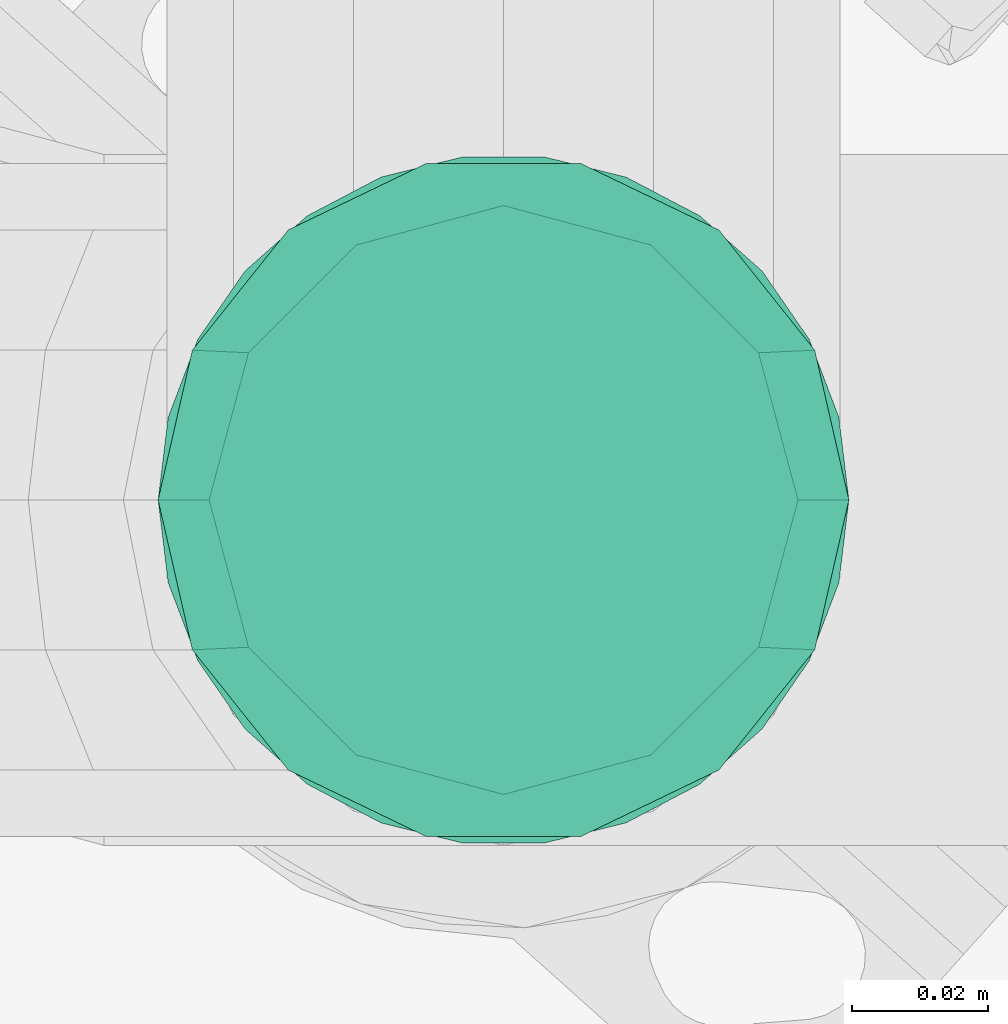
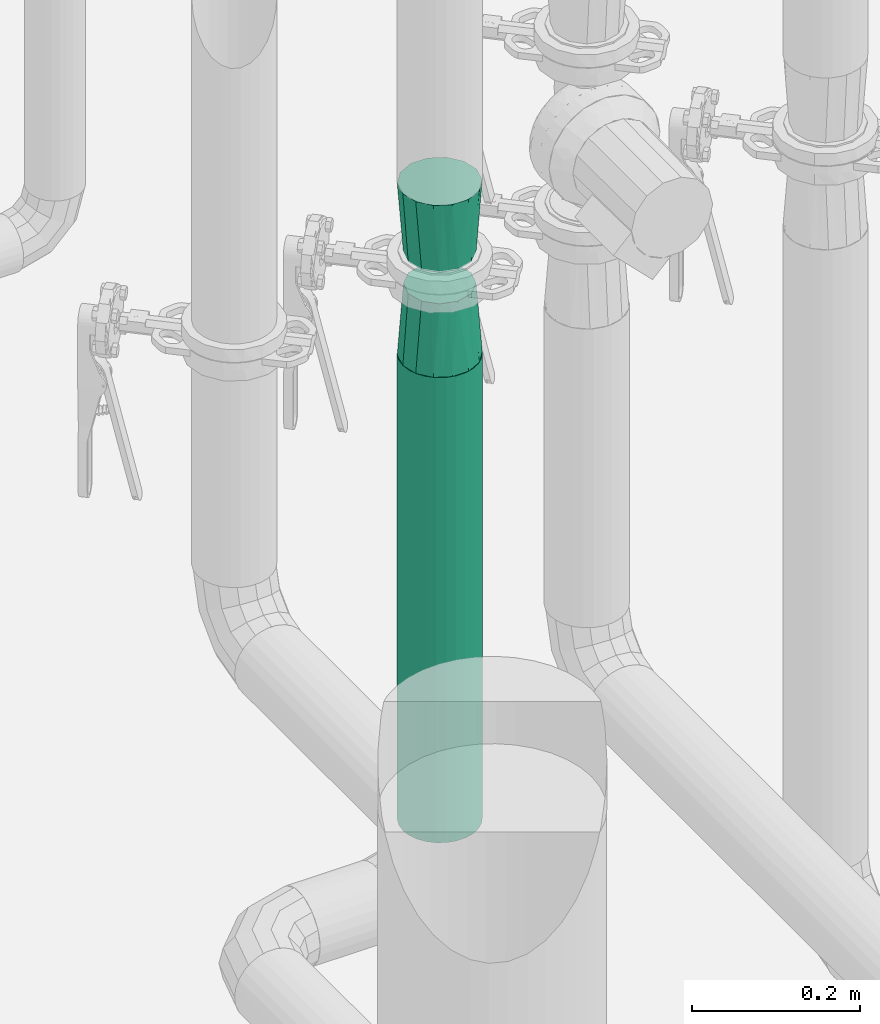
# One storey, part 11 of 43: 2 flow fittings, 1 flow segment.
"""IFC2X3 building model written with IfcOpenShell, lengths in millimetres."""

from ifc_helpers import new_model, entity, si_unit, converted_unit, derived_unit, direction, frame, origin, origin_2d_with_axis, place, context, subcontext, project, spatial, circle, extrude, faceted_brep, source, transform, mapped, material, type_object, type_shapes, element, save


model = new_model("IFC2X3")

# Units and contexts
model_context = context("Model", 3, precision=0.01, world=origin(), true_north=direction((6.123031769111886e-17, 1.0)))
body_context = subcontext(model_context, "Body", "Model", "MODEL_VIEW")
ifc_project = project(units=[si_unit("LENGTHUNIT", "METRE", prefix="MILLI"), si_unit("AREAUNIT", "SQUARE_METRE"), si_unit("VOLUMEUNIT", "CUBIC_METRE"), converted_unit("PLANEANGLEUNIT", "DEGREE", entity("IfcRatioMeasure", 0.017453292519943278), si_unit("PLANEANGLEUNIT", "RADIAN"), dimensions=[0, 0, 0, 0, 0, 0, 0]), si_unit("MASSUNIT", "GRAM", prefix="KILO"), derived_unit("MASSDENSITYUNIT", [(si_unit("MASSUNIT", "GRAM", prefix="KILO"), 1), (si_unit("LENGTHUNIT", "METRE"), -3)]), derived_unit("MOMENTOFINERTIAUNIT", [(si_unit("LENGTHUNIT", "METRE"), 4)]), si_unit("TIMEUNIT", "SECOND"), si_unit("FREQUENCYUNIT", "HERTZ"), si_unit("THERMODYNAMICTEMPERATUREUNIT", "DEGREE_CELSIUS"), derived_unit("THERMALTRANSMITTANCEUNIT", [(si_unit("MASSUNIT", "GRAM", prefix="KILO"), 1), (si_unit("THERMODYNAMICTEMPERATUREUNIT", "KELVIN"), -1), (si_unit("TIMEUNIT", "SECOND"), -3)]), derived_unit("VOLUMETRICFLOWRATEUNIT", [(si_unit("LENGTHUNIT", "METRE"), 3), (si_unit("TIMEUNIT", "SECOND"), -1)]), derived_unit("MASSFLOWRATEUNIT", [(si_unit("MASSUNIT", "GRAM", prefix="KILO"), 1), (si_unit("TIMEUNIT", "SECOND"), -1)]), derived_unit("ROTATIONALFREQUENCYUNIT", [(si_unit("TIMEUNIT", "SECOND"), -1)]), si_unit("ELECTRICCURRENTUNIT", "AMPERE"), si_unit("ELECTRICVOLTAGEUNIT", "VOLT"), si_unit("POWERUNIT", "WATT"), si_unit("FORCEUNIT", "NEWTON", prefix="KILO"), si_unit("ILLUMINANCEUNIT", "LUX"), si_unit("LUMINOUSFLUXUNIT", "LUMEN"), si_unit("LUMINOUSINTENSITYUNIT", "CANDELA"), derived_unit("USERDEFINED", [(si_unit("MASSUNIT", "GRAM", prefix="KILO"), -1), (si_unit("LENGTHUNIT", "METRE"), -2), (si_unit("TIMEUNIT", "SECOND"), 3), (si_unit("LUMINOUSFLUXUNIT", "LUMEN"), 1)]), derived_unit("SOUNDPOWERUNIT", [(si_unit("MASSUNIT", "GRAM", prefix="KILO"), 1), (si_unit("LENGTHUNIT", "METRE"), 2), (si_unit("TIMEUNIT", "SECOND"), -3)]), derived_unit("SOUNDPRESSUREUNIT", [(si_unit("MASSUNIT", "GRAM", prefix="KILO"), 1), (si_unit("LENGTHUNIT", "METRE"), -1), (si_unit("TIMEUNIT", "SECOND"), -2)]), derived_unit("LINEARVELOCITYUNIT", [(si_unit("LENGTHUNIT", "METRE"), 1), (si_unit("TIMEUNIT", "SECOND"), -1)]), si_unit("PRESSUREUNIT", "PASCAL"), derived_unit("USERDEFINED", [(si_unit("LENGTHUNIT", "METRE"), -2), (si_unit("MASSUNIT", "GRAM", prefix="KILO"), 1), (si_unit("TIMEUNIT", "SECOND"), -2)]), derived_unit("LINEARFORCEUNIT", [(si_unit("MASSUNIT", "GRAM", prefix="KILO"), 1), (si_unit("LENGTHUNIT", "METRE"), 1), (si_unit("TIMEUNIT", "SECOND"), -2), (si_unit("LENGTHUNIT", "METRE"), -1)]), derived_unit("PLANARFORCEUNIT", [(si_unit("MASSUNIT", "GRAM", prefix="KILO"), 1), (si_unit("LENGTHUNIT", "METRE"), 1), (si_unit("TIMEUNIT", "SECOND"), -2), (si_unit("LENGTHUNIT", "METRE"), -2)])], contexts=[model_context])

# Site, building, storey
site_placement = place(None, origin())
site = spatial("IfcSite", under=ifc_project, at=site_placement, Name="Default", CompositionType="ELEMENT")
building_placement = place(site_placement, origin())
building = spatial("IfcBuilding", under=site, at=building_placement, CompositionType="ELEMENT")
storey_placement = place(building_placement, frame((0.0, 0.0, 270.0)))
storey = spatial("IfcBuildingStorey", under=building, at=storey_placement, Name="Niveau 0", CompositionType="ELEMENT", Elevation=270.0)

# Flow segment
pipe_segment_type = type_object("IfcPipeSegmentType", Name="Canalisation:tube acier", PredefinedType="NOTDEFINED")
flow_segment_placement = place(storey_placement, origin())
element("IfcFlowSegment", 1, at=flow_segment_placement, inside=storey, type_object=pipe_segment_type, Name="Canalisation:tube acier", ObjectType="Canalisation:tube acier", context=body_context, shape_type="SweptSolid", body=[
    extrude(circle(Radius=50.8, at=origin_2d_with_axis()), frame((-2220.5299038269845, -12830.0, 589.0), z_axis=(0.0, 0.0, 1.0), x_axis=(-1.0, 0.0, 0.0)), (0.0, 0.0, 1.0), 676.4999999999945),
])

# Flow fittings
ifc_material = material(Name="<Unnamed>")
pipe_fitting_type = type_object("IfcPipeFittingType", Name="Transformation - Générique:Standard", PredefinedType="NOTDEFINED", material=ifc_material)
shared_shape = source(origin(), body_context, "Body", "Brep", [
    faceted_brep([(102.0, -43.30898437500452, 0.0), (102.0, -40.40783252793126, -10.82724609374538), (102.0, -37.506680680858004, -21.654492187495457), (102.0, -29.58058643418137, -29.580586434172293), (102.0, -21.654492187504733, -37.50668068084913), (102.0, -10.827246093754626, -40.40783252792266), (102.0, 0.0, -43.30898437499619), (102.0, 10.827246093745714, -40.407832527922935), (102.0, 21.654492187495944, -37.506680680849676), (102.0, 29.580586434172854, -29.58058643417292), (102.0, 37.506680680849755, -21.654492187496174), (102.0, 40.407832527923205, -10.827246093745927), (102.0, 43.308984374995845, 0.0), (102.0, 40.407832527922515, 10.827246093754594), (102.0, 37.50668068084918, 21.654492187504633), (102.0, 29.580586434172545, 29.580586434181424), (102.0, 21.65449218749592, 37.50668068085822), (102.0, 10.827246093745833, 40.407832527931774), (102.0, 0.0, 43.30898437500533), (102.0, -10.827246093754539, 40.40783252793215), (102.0, -21.654492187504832, 37.50668068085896), (102.0, -29.58058643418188, 29.580586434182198), (102.0, -37.50668068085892, 21.654492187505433), (102.0, -40.407832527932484, 10.827246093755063), (0.0, -45.769218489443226, -22.041293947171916), (0.0, -48.284609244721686, -11.020646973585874), (0.0, -50.800000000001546, 0.0), (0.0, -48.284609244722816, 11.020646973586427), (0.0, -45.76921848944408, 22.04129394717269), (0.0, -38.721250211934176, 30.879166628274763), (0.0, -31.673281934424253, 39.71703930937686), (0.0, -21.488672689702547, 44.621688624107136), (0.0, -11.304063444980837, 49.52633793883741), (0.0, 0.0, 49.52633793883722), (0.0, 11.30406344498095, 49.526337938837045), (0.0, 21.488672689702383, 44.621688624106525), (0.0, 31.673281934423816, 39.717039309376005), (0.0, 38.72125021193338, 30.87916662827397), (0.0, 45.769218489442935, 22.04129394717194), (0.0, 48.284609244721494, 11.02064697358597), (0.0, 50.800000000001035, 0.0), (0.0, 48.28460924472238, -11.020646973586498), (0.0, 45.76921848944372, -22.041293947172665), (0.0, 38.721250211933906, -30.879166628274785), (0.0, 31.67328193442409, -39.717039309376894), (0.0, 21.48867268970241, -44.62168862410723), (0.0, 11.304063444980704, -49.526337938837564), (0.0, 0.0, -49.52633793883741), (0.0, -11.304063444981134, -49.52633793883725), (0.0, -21.48867268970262, -44.62168862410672), (0.0, -31.67328193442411, -39.71703930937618), (0.0, -38.721250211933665, -30.879166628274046)], [[[0, 1, 2, 3, 4, 5, 6, 7, 8, 9, 10, 11, 12, 13, 14, 15, 16, 17, 18, 19, 20, 21, 22, 23]], [[24, 25, 26, 27, 28, 29, 30, 31, 32, 33, 34, 35, 36, 37, 38, 39, 40, 41, 42, 43, 44, 45, 46, 47, 48, 49, 50, 51]], [[45, 44, 8]], [[11, 42, 41]], [[43, 42, 10]], [[10, 42, 11]], [[45, 7, 46]], [[0, 25, 1]], [[9, 8, 44]], [[6, 48, 47, 46]], [[4, 50, 49]], [[50, 4, 3]], [[49, 5, 4]], [[25, 0, 26]], [[7, 6, 46]], [[51, 2, 24]], [[9, 44, 43]], [[12, 41, 40]], [[49, 48, 5]], [[12, 11, 41]], [[24, 2, 1]], [[2, 51, 3]], [[10, 9, 43]], [[7, 45, 8]], [[48, 6, 5]], [[51, 50, 3]], [[25, 24, 1]], [[31, 30, 20]], [[23, 28, 27]], [[29, 28, 22]], [[22, 28, 23]], [[31, 19, 32]], [[12, 39, 13]], [[21, 20, 30]], [[18, 34, 33, 32]], [[16, 36, 35]], [[36, 16, 15]], [[35, 17, 16]], [[39, 12, 40]], [[19, 18, 32]], [[37, 14, 38]], [[21, 30, 29]], [[0, 27, 26]], [[35, 34, 17]], [[0, 23, 27]], [[38, 14, 13]], [[14, 37, 15]], [[22, 21, 29]], [[19, 31, 20]], [[34, 18, 17]], [[37, 36, 15]], [[39, 38, 13]]]),
])
type_shapes(pipe_fitting_type, [shared_shape])
for number, where, z_axis, x_axis in (
    (2, (-2220.529903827, -12830.0, 1265.4999999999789), (0.0, -1.0, 0.0), (0.0, 0.0, 1.0)),
    (3, (-2220.5299038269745, -12830.0, 1515.5000000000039), (0.0, -1.0, 0.0), (0.0, 0.0, -1.0)),
):
    element("IfcFlowFitting", number, at=place(storey_placement, frame(where, z_axis=z_axis, x_axis=x_axis)), inside=storey, type_object=pipe_fitting_type, material=ifc_material, Name="Transformation - Générique:Standard", ObjectType="Transformation - Générique:Standard", context=body_context, shape_type="MappedRepresentation", body=[
        mapped(shared_shape, transform((0.0, 0.0, 0.0), scale=1.0)),
    ])

save(model, "model.ifc")
